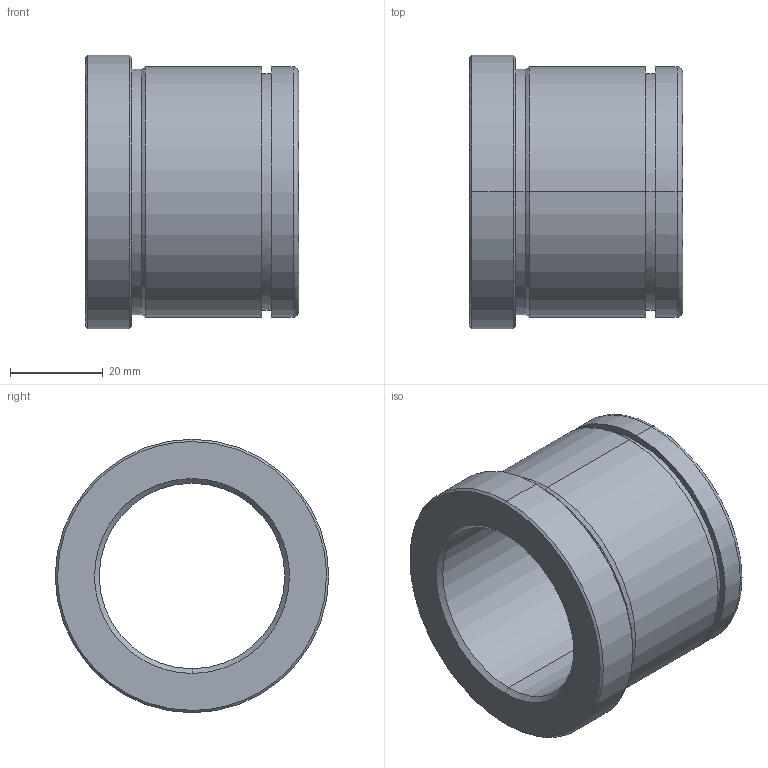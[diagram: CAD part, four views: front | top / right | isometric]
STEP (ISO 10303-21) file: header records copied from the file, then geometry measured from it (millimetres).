
FILE_DESCRIPTION(('CATIA V5 STEP Exchange'),'2;1');
FILE_NAME('C:\Users\Utente\Desktop\IO LAVORO\3D X SITO CF\X SITO\PLASTICA\553\553-40X46.stp','2021-06-03T18:31:57+00:00',('none'),('none'),'CATIA Version 5 Release 20 GA (IN-10)','CATIA V5 STEP AP203','none');
FILE_SCHEMA(('CONFIG_CONTROL_DESIGN'));
Length unit declared in the file: millimetre
Products named in the file (1): 553-40X46
Bounding box: 46 x 59 x 59 mm (x, y, z)
Volume: 50910.6 mm3; surface area: 16867.8 mm2
Topology: 1 solids, 1 shells, 29 faces, 92 edges, 68 vertices
Faces by surface type: cylinder 12, cone 8, plane 5, torus 4
Entity records: 1222 total; most frequent: CARTESIAN_POINT 368, ORIENTED_EDGE 184, DIRECTION 136, EDGE_CURVE 92, AXIS2_PLACEMENT_3D 88, VERTEX_POINT 68, CIRCLE 58, EDGE_LOOP 34
